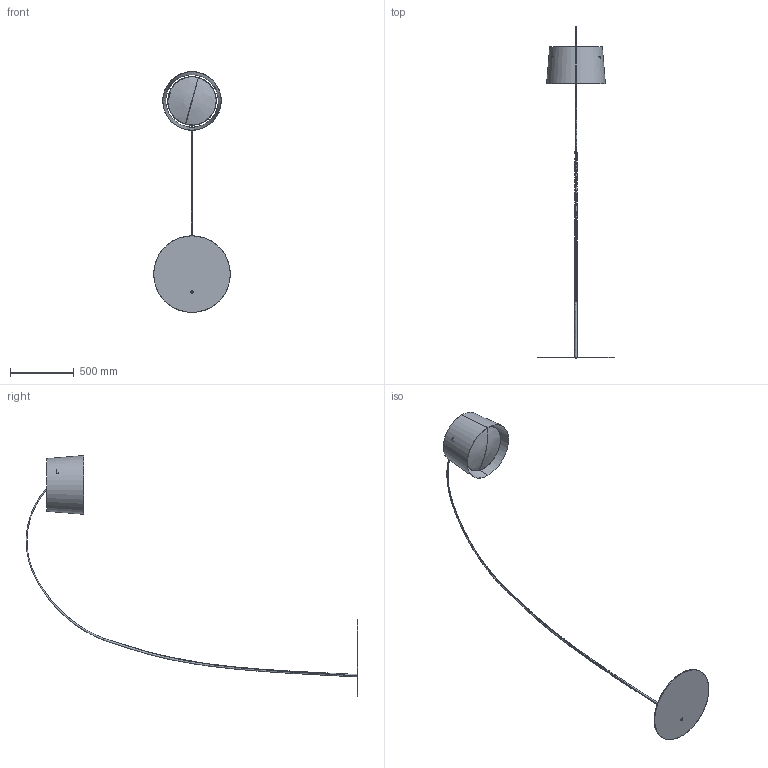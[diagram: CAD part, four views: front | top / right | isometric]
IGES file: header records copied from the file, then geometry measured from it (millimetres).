
Start section: SolidWorks IGES file using analytic representation for surfaces
Global section: file name: F:\foscarini\RS\0_ 2D-3D\TWIGGY WOOD\3d (3ds,dxf,stp,igs)\IGS\TWIGGY_terra_800mm.IGS; native system: SolidWorks 2020; preprocessor: SolidWorks 2020; author: m.tonasso; date: 200715.104404; units: millimetre
Bounding box: 600 x 2599.79 x 1887.33 mm (x, y, z)
Surface area: 1863162 mm2 (no closed solid volume)
Topology: 0 solids, 0 shells, 59 faces, 2128 edges, 2127 vertices
Faces by surface type: bspline 31, revolution 28
